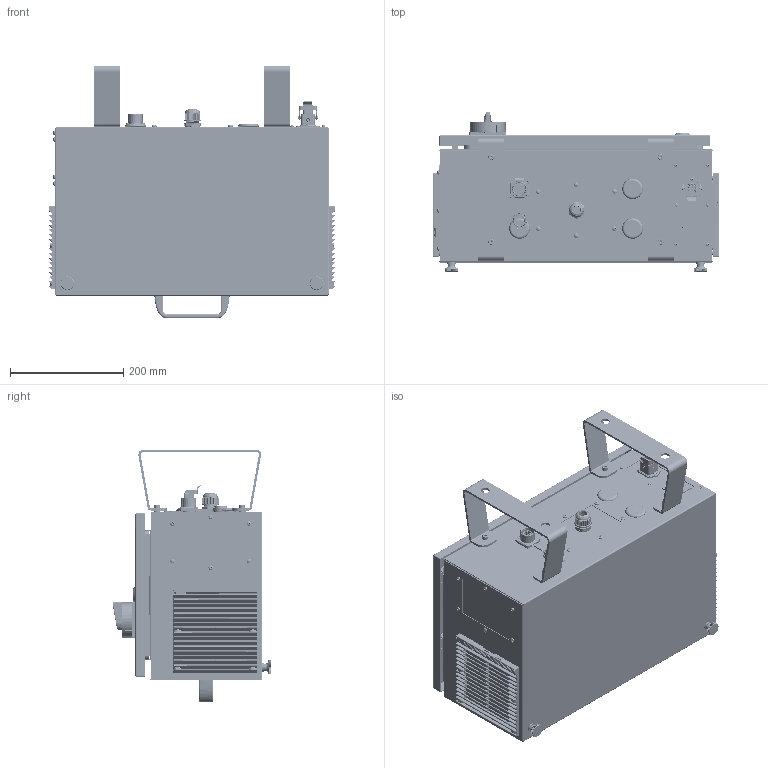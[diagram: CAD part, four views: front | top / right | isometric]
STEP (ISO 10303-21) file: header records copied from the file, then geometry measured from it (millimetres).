
FILE_DESCRIPTION (( 'STEP AP203' ), '1' );
FILE_NAME ('ERB2EM.STEP', '2022-02-11T05:41:43', ( '' ), ( '' ), 'SwSTEP 2.0', 'SolidWorks 2017', '' );
FILE_SCHEMA (( 'CONFIG_CONTROL_DESIGN' ));
Length unit declared in the file: millimetre
Products named in the file (33): RJ45脣釱 LP-24-RJ45-S01; 藷郪璃; cross recessed pan head screws gb_GB_CROSS_SCREWS_TYPE1 M3X6-6  H type-N; 藷; 蝓蟈 HGZ-201-ST; 眊极; CDSF-1.5; 峔塋蟀諉ん郪璃; cross recessed countersunk head screws gb1_GB_CROSS_SCREWS_TYPE4 M3X8-6.35  H type-N; 蟀諉え; knurled thumb screws gb_GB_KNURLED_SCREWS_TYPE1 M8X12-N; 6622.300; HD-008-FC; hexagon socket head cap screws gb_GB_FASTENER_SCREWS_HSHCS M8X12-N; 黑芛 MBP-25.4; 蟀諉ん假蚾鍼踢; ERB2EM; hexagon nuts with flange gb_GB_HEXAGON_TYPE12 M8-N; 盓殤; 眊极-EC-B2; cross recessed pan head screws gb_GB_CROSS_SCREWS_TYPE1 M4X6-6  H type-N; 跡擘芛 KGB20-14-ST; 枑忒 UPFN26-117-B; 菁釱; 脣种; H3A-BK-1L_W; hexagon socket head cap screws gb_GB_FASTENER_SCREWS_HSHCS M6X10-N; CDSF-2.5; 熔断开关 MLD-032020PE; 躇猾啣02; 蛌忕坶 MS705 H=25; 跡擘芛假蚾啣; 躇猾啣01
Assembly tree (79 placements, depth 5):
  ERB2EM
    眊极-EC-B2
      眊极
      盓殤  x2
      藷郪璃
        藷
        蝓蟈 HGZ-201-ST  x2
          蟀諉え
          菁釱
          脣种
        蛌忕坶 MS705 H=25
      黑芛 MBP-25.4  x3
      躇猾啣01
      蟀諉ん假蚾鍼踢
      枑忒 UPFN26-117-B
      躇猾啣02  x2
      hexagon socket head cap screws gb_GB_FASTENER_SCREWS_HSHCS M6X10-N  x10
      cross recessed pan head screws gb_GB_CROSS_SCREWS_TYPE1 M4X6-6  H type-N  x12
      knurled thumb screws gb_GB_KNURLED_SCREWS_TYPE1 M8X12-N  x2
      hexagon nuts with flange gb_GB_HEXAGON_TYPE12 M8-N  x2
      hexagon socket head cap screws gb_GB_FASTENER_SCREWS_HSHCS M8X12-N  x2
      cross recessed pan head screws gb_GB_CROSS_SCREWS_TYPE1 M3X6-6  H type-N  x6
    峔塋蟀諉ん郪璃
      CDSF-1.5  x2
      CDSF-2.5  x5
      H3A-BK-1L_W
      HD-008-FC
    RJ45脣釱 LP-24-RJ45-S01
    跡擘芛 KGB20-14-ST
    6622.300  x2
    熔断开关 MLD-032020PE
    cross recessed pan head screws gb_GB_CROSS_SCREWS_TYPE1 M3X6-6  H type-N  x2
    cross recessed countersunk head screws gb1_GB_CROSS_SCREWS_TYPE4 M3X8-6.35  H type-N  x6
    跡擘芛假蚾啣
Bounding box: 505.9 x 281.15 x 447.12 mm (x, y, z)
Volume: 1904623.8 mm3; surface area: 1935507.4 mm2
Topology: 114 solids, 117 shells, 12944 faces, 34724 edges, 22099 vertices
Faces by surface type: plane 7238, cylinder 3282, bspline 1454, cone 539, torus 269, sphere 162
Entity records: 346683 total; most frequent: CARTESIAN_POINT 124565, ORIENTED_EDGE 48938, DIRECTION 39328, EDGE_CURVE 24469, VERTEX_POINT 15666, VECTOR 14482, LINE 14482, AXIS2_PLACEMENT_3D 12423
